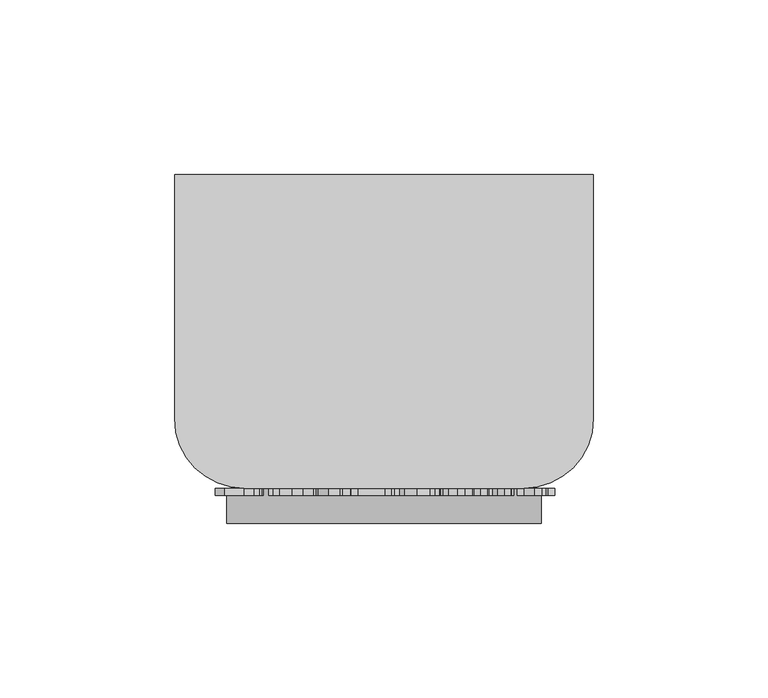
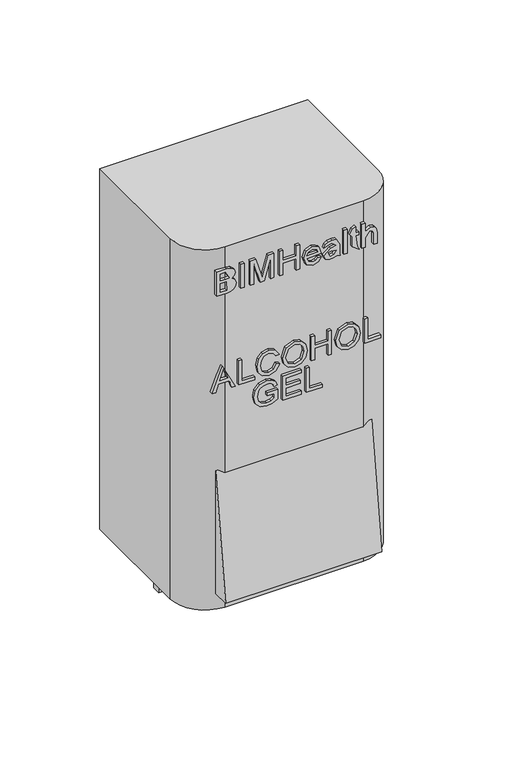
"""IFC4 building model written with IfcOpenShell, lengths in millimetres: furniture geometry, BIMHealth-Alcohol_gel_dispenser-LOD2A-v1 : BIMHealth-Alcohol_gel_dispenser-LOD2A-v1."""

from ifc_helpers import new_model, si_unit, point, frame, frame_2d, origin, place, context, project, spatial, polyline, circle_curve, trimmed, segment, composite_curve, outline, extrude, source, transform, mapped, element, save


def furniture_385ba860(model_context):
    return source(origin(), model_context, "Body", "SweptSolid", [
        extrude(outline(composite_curve([segment(polyline([(-27.7204761, 1175.8518543), (-32.7330725, 1175.8518543)]), True, "CONTINUOUS"), segment(trimmed(circle_curve(frame_2d((9.9472305, 1178.699775)), 42.7752137), [point((-32.7330725, 1175.8518543))], [point((-27.147504, 1200.0))], False, "CARTESIAN"), True, "CONTINUOUS"), segment(polyline([(-27.147504, 1200.0), (-21.25, 1200.0)]), True, "CONTINUOUS"), segment(trimmed(circle_curve(frame_2d((9.9472305, 1178.699775)), 37.7752137), [point((-21.25, 1200.0))], [point((-27.7204761, 1175.8518543))], True, "CARTESIAN"), True, "CONTINUOUS")], self_intersect=False)), frame((15.0, 0.0, 0.0), z_axis=(1.0, 0.0, 0.0), x_axis=(0.0, 1.0, 0.0)), (0.0, 0.0, 1.0), 90.0),
        extrude(outline(composite_curve([segment(polyline([(120.0, 0.0), (120.0, -70.0)]), True, "CONTINUOUS"), segment(trimmed(circle_curve(frame_2d((100.0, -70.0)), 20.0), [point((120.0, -70.0))], [point((100.0, -90.0))], False, "CARTESIAN"), True, "CONTINUOUS"), segment(polyline([(100.0, -90.0), (20.0, -90.0)]), True, "CONTINUOUS"), segment(trimmed(circle_curve(frame_2d((20.0, -70.0)), 20.0), [point((20.0, -90.0))], [point((0.0, -70.0))], False, "CARTESIAN"), True, "CONTINUOUS"), segment(polyline([(0.0, -70.0), (0.0, 0.0), (120.0, 0.0)]), True, "CONTINUOUS")], self_intersect=False)), frame((0.0, 0.0, 1200.0), z_axis=(0.0, 0.0, 1.0), x_axis=(1.0, 0.0, 0.0)), (0.0, 0.0, 1.0), 220.0),
        extrude(outline(polyline([(1334.3741496, 11.682664), (1334.3741496, 13.6297794), (1338.9895342, 15.3172794), (1338.9895342, 21.4038178), (1334.3741496, 23.0913178), (1334.3741496, 25.042039), (1349.1433804, 17.5780967), (1334.3741496, 11.682664)]), holes=[polyline([(1340.8356881, 15.995164), (1344.7840054, 17.4410775), (1347.2972265, 18.3605486), (1344.4666977, 19.3954044), (1340.8356881, 20.729539), (1340.8356881, 15.995164)])]), frame((0.0, -92.0, 0.0), z_axis=(0.0, 1.0, 0.0), x_axis=(0.0, 0.0, 1.0)), (0.0, 0.0, 1.0), 2.0),
        extrude(outline(polyline([(1334.3741496, 27.0143948), (1334.3741496, 36.245164), (1336.2203034, 36.245164), (1336.2203034, 28.8605486), (1349.1433804, 28.8605486), (1349.1433804, 27.0143948), (1334.3741496, 27.0143948)])), frame((0.0, -92.0, 0.0), z_axis=(0.0, 1.0, 0.0), x_axis=(0.0, 0.0, 1.0)), (0.0, 0.0, 1.0), 2.0),
        extrude(outline(polyline([(1339.6241496, 48.7067025), (1336.9053996, 47.1399957), (1335.9895342, 44.3148755), (1336.6620102, 41.7673996), (1338.6938611, 40.0330246), (1341.8741496, 39.4759332), (1344.61814, 39.9464861), (1346.7383323, 41.5780967), (1347.5279958, 44.4663178), (1346.8158563, 46.9615101), (1344.5460246, 48.4759332), (1344.9859284, 50.3220871), (1348.2239092, 48.2361496), (1349.3741496, 44.5384332), (1348.4853275, 40.9903563), (1345.883765, 38.5041784), (1341.8705438, 37.6297794), (1337.9222265, 38.4032169), (1335.1133323, 40.6568226), (1334.1433804, 44.4987698), (1335.4252313, 48.3641544), (1339.1481881, 50.5528563), (1339.6241496, 48.7067025)])), frame((0.0, -92.0, 0.0), z_axis=(0.0, 1.0, 0.0), x_axis=(0.0, 0.0, 1.0)), (0.0, 0.0, 1.0), 2.0),
        extrude(outline(polyline([(1341.5640534, 52.3990101), (1337.8879717, 53.2427601), (1335.1475871, 55.7235294), (1334.1433804, 59.4374717), (1335.0520342, 63.0125919), (1337.727515, 65.572688), (1341.7335246, 66.4759332), (1345.6854477, 65.6177601), (1348.4005919, 63.1225678), (1349.3741496, 59.448289), (1347.3008323, 54.3677601), (1341.5640534, 52.3990101)]), holes=[polyline([(1341.5460246, 54.245164), (1346.148789, 55.7848275), (1347.5279958, 59.4591063), (1346.8122506, 62.1688419), (1344.7948227, 64.0023755), (1341.7479477, 64.6297794), (1337.4895342, 63.1640342), (1335.9895342, 59.4266544), (1337.4751111, 55.7217265), (1341.5460246, 54.245164)])]), frame((0.0, -92.0, 0.0), z_axis=(0.0, 1.0, 0.0), x_axis=(0.0, 0.0, 1.0)), (0.0, 0.0, 1.0), 2.0),
        extrude(outline(polyline([(1334.3741496, 69.0143948), (1334.3741496, 70.8605486), (1341.2972265, 70.8605486), (1341.2972265, 78.7067025), (1334.3741496, 78.7067025), (1334.3741496, 80.5528563), (1349.1433804, 80.5528563), (1349.1433804, 78.7067025), (1343.1433804, 78.7067025), (1343.1433804, 70.8605486), (1349.1433804, 70.8605486), (1349.1433804, 69.0143948), (1334.3741496, 69.0143948)])), frame((0.0, -92.0, 0.0), z_axis=(0.0, 1.0, 0.0), x_axis=(0.0, 0.0, 1.0)), (0.0, 0.0, 1.0), 2.0),
        extrude(outline(polyline([(1341.5640534, 83.0913178), (1337.8879717, 83.9350678), (1335.1475871, 86.4158371), (1334.1433804, 90.1297794), (1335.0520342, 93.7048996), (1337.727515, 96.2649957), (1341.7335246, 97.1682409), (1345.6854477, 96.3100678), (1348.4005919, 93.8148755), (1349.3741496, 90.1405967), (1347.3008323, 85.0600678), (1341.5640534, 83.0913178)]), holes=[polyline([(1341.5460246, 84.9374717), (1346.148789, 86.4771351), (1347.5279958, 90.151414), (1346.8122506, 92.8611496), (1344.7948227, 94.6946832), (1341.7479477, 95.3220871), (1337.4895342, 93.8563419), (1335.9895342, 90.1189621), (1337.4751111, 86.4140342), (1341.5460246, 84.9374717)])]), frame((0.0, -92.0, 0.0), z_axis=(0.0, 1.0, 0.0), x_axis=(0.0, 0.0, 1.0)), (0.0, 0.0, 1.0), 2.0),
        extrude(outline(polyline([(1334.3741496, 99.7067025), (1334.3741496, 108.9374717), (1336.2203034, 108.9374717), (1336.2203034, 101.5528563), (1349.1433804, 101.5528563), (1349.1433804, 99.7067025), (1334.3741496, 99.7067025)])), frame((0.0, -92.0, 0.0), z_axis=(0.0, 1.0, 0.0), x_axis=(0.0, 0.0, 1.0)), (0.0, 0.0, 1.0), 2.0),
        extrude(outline(polyline([(1321.9126111, 43.3990101), (1321.9126111, 47.5528563), (1319.2443419, 47.5528563), (1318.2329236, 45.683265), (1317.758765, 43.1574236), (1318.3879717, 40.3431207), (1320.3134525, 38.32389), (1323.5316015, 37.6297794), (1326.43064, 38.2067025), (1327.8531159, 39.1568226), (1328.898789, 40.7649957), (1329.2972265, 43.1285775), (1328.9276352, 45.2036976), (1327.9432602, 46.6423996), (1326.2359284, 47.4843467), (1326.7154958, 49.1862698), (1329.1584044, 48.0702842), (1330.6187409, 46.0456448), (1331.1433804, 43.1574236), (1330.2383323, 39.2704044), (1327.4709044, 36.683265), (1323.4558804, 35.7836255), (1319.5291977, 36.6868707), (1316.8410967, 39.3623515), (1315.9126111, 43.3052601), (1316.4967458, 46.4368707), (1318.2383323, 49.3990101), (1323.758765, 49.3990101), (1323.758765, 43.3990101), (1321.9126111, 43.3990101)])), frame((0.0, -92.0, 0.0), z_axis=(0.0, 1.0, 0.0), x_axis=(0.0, 0.0, 1.0)), (0.0, 0.0, 1.0), 2.0),
        extrude(outline(polyline([(1316.1433804, 52.3990101), (1316.1433804, 63.245164), (1317.9895342, 63.245164), (1317.9895342, 54.245164), (1322.8356881, 54.245164), (1322.8356881, 62.5528563), (1324.6818419, 62.5528563), (1324.6818419, 54.245164), (1329.0664573, 54.245164), (1329.0664573, 63.0143948), (1330.9126111, 63.0143948), (1330.9126111, 52.3990101), (1316.1433804, 52.3990101)])), frame((0.0, -92.0, 0.0), z_axis=(0.0, 1.0, 0.0), x_axis=(0.0, 0.0, 1.0)), (0.0, 0.0, 1.0), 2.0),
        extrude(outline(polyline([(1316.1433804, 66.0143948), (1316.1433804, 75.245164), (1317.9895342, 75.245164), (1317.9895342, 67.8605486), (1330.9126111, 67.8605486), (1330.9126111, 66.0143948), (1316.1433804, 66.0143948)])), frame((0.0, -92.0, 0.0), z_axis=(0.0, 1.0, 0.0), x_axis=(0.0, 0.0, 1.0)), (0.0, 0.0, 1.0), 2.0),
        extrude(outline(polyline([(-100.0, 1210.0), (-90.0, 1285.0), (-90.0, 1210.0), (-100.0, 1210.0)])), frame((15.0, 0.0, 0.0), z_axis=(1.0, 0.0, 0.0), x_axis=(0.0, 1.0, 0.0)), (0.0, 0.0, 1.0), 90.0),
        extrude(outline(polyline([(1392.8596209, 14.3661949), (1392.8596209, 19.9587429), (1393.1138276, 22.3259304), (1393.8638276, 23.9323006), (1395.2772892, 25.0086227), (1397.2622651, 25.4431179), (1399.5591401, 24.8066997), (1400.936544, 22.9875891), (1402.2436353, 24.4857862), (1403.9689959, 24.9815795), (1405.858419, 24.3920362), (1407.1943565, 22.7622285), (1407.6288517, 20.0020122), (1407.6288517, 14.3661949), (1392.8596209, 14.3661949)]), holes=[polyline([(1394.7057748, 16.2123487), (1399.7826978, 16.2123487), (1399.7826978, 19.8181179), (1394.7057748, 19.9984064), (1394.7057748, 16.2123487)]), polyline([(1401.6288517, 16.2123487), (1405.7826978, 16.2123487), (1405.7826978, 19.3277333), (1401.7875055, 21.5524929), (1401.6288517, 19.5837429), (1401.6288517, 16.2123487)])]), frame((0.0, -92.0, 0.0), z_axis=(0.0, 1.0, 0.0), x_axis=(0.0, 0.0, 1.0)), (0.0, 0.0, 1.0), 2.0),
        extrude(outline(polyline([(30.0585026, -92.0), (28.2123487, -92.0), (28.2123487, -90.0), (30.0585026, -90.0), (30.0585026, -92.0)])), frame((0.0, 0.0, 1392.8596209), z_axis=(0.0, 0.0, 1.0), x_axis=(1.0, 0.0, 0.0)), (0.0, 0.0, 1.0), 14.7692308),
        extrude(outline(polyline([(1392.8596209, 33.7508102), (1392.8596209, 35.5969641), (1405.7826978, 35.5969641), (1392.8596209, 39.3109064), (1392.8596209, 41.8097045), (1405.7826978, 45.520041), (1392.8596209, 45.520041), (1392.8596209, 47.3661949), (1407.6288517, 47.3661949), (1407.6288517, 44.1895122), (1397.3992844, 41.2183583), (1395.0447171, 40.5585026), (1397.2189959, 39.9455218), (1407.6288517, 36.9166756), (1407.6288517, 33.7508102), (1392.8596209, 33.7508102)])), frame((0.0, -92.0, 0.0), z_axis=(0.0, 1.0, 0.0), x_axis=(0.0, 0.0, 1.0)), (0.0, 0.0, 1.0), 2.0),
        extrude(outline(polyline([(1392.8596209, 50.5969641), (1392.8596209, 52.4431179), (1399.7826978, 52.4431179), (1399.7826978, 60.2892718), (1392.8596209, 60.2892718), (1392.8596209, 62.1354256), (1407.6288517, 62.1354256), (1407.6288517, 60.2892718), (1401.6288517, 60.2892718), (1401.6288517, 52.4431179), (1407.6288517, 52.4431179), (1407.6288517, 50.5969641), (1392.8596209, 50.5969641)])), frame((0.0, -92.0, 0.0), z_axis=(0.0, 1.0, 0.0), x_axis=(0.0, 0.0, 1.0)), (0.0, 0.0, 1.0), 2.0),
        extrude(outline(polyline([(1396.0903901, 72.7291756), (1394.8608228, 71.5392718), (1394.4750055, 69.7291756), (1395.3079382, 67.3511708), (1397.7057748, 66.2892718), (1398.2033709, 74.5969641), (1402.4329382, 73.1961227), (1403.936544, 69.5885506), (1402.4293324, 65.8746083), (1398.1925536, 64.4431179), (1394.0909911, 65.8601852), (1392.6288517, 69.6931179), (1393.4762074, 72.8463631), (1395.8596209, 74.5392718), (1396.0903901, 72.7291756)]), holes=[polyline([(1399.5519286, 66.2892718), (1401.3998853, 67.3079016), (1402.0903901, 69.5813391), (1401.2250055, 72.0116276), (1399.5519286, 72.7508102), (1399.5519286, 66.2892718)])]), frame((0.0, -92.0, 0.0), z_axis=(0.0, 1.0, 0.0), x_axis=(0.0, 0.0, 1.0)), (0.0, 0.0, 1.0), 2.0),
        extrude(outline(polyline([(1393.5519286, 83.5969641), (1392.8596209, 85.6738872), (1394.4119046, 85.3060987), (1397.6192363, 85.2123487), (1399.9161113, 85.2123487), (1403.608419, 83.2922766), (1403.936544, 81.0548968), (1403.5651498, 78.6191997), (1402.5086594, 77.0110266), (1400.7057748, 76.2123487), (1401.7352219, 78.9491276), (1402.0903901, 80.816916), (1399.7826978, 83.3553776), (1399.1480824, 80.1534545), (1395.7442363, 75.9815795), (1393.5050536, 76.9172766), (1392.6288517, 79.598166), (1392.9930344, 81.5759304), (1393.5519286, 83.5969641)]), holes=[polyline([(1396.9611834, 83.2147526), (1394.9167123, 81.8589833), (1394.4750055, 79.9911949), (1397.0711594, 78.7994881), (1397.3704382, 80.3878295), (1396.9611834, 83.2147526)])]), frame((0.0, -92.0, 0.0), z_axis=(0.0, 1.0, 0.0), x_axis=(0.0, 0.0, 1.0)), (0.0, 0.0, 1.0), 2.0),
        extrude(outline(polyline([(89.5969641, -92.0), (87.7508102, -92.0), (87.7508102, -90.0), (89.5969641, -90.0), (89.5969641, -92.0)])), frame((0.0, 0.0, 1392.8596209), z_axis=(0.0, 0.0, 1.0), x_axis=(1.0, 0.0, 0.0)), (0.0, 0.0, 1.0), 14.7692308),
        extrude(outline(polyline([(1395.1438757, 95.3661949), (1401.8596209, 94.4431179), (1401.8596209, 96.2892718), (1403.7057748, 96.2892718), (1403.7057748, 94.4431179), (1407.4269286, 94.4431179), (1406.3415921, 92.5969641), (1403.7057748, 91.2123487), (1401.8596209, 92.5969641), (1395.8343805, 92.5969641), (1392.8055344, 96.520041), (1395.1438757, 95.3661949)])), frame((0.0, -92.0, 0.0), z_axis=(0.0, 1.0, 0.0), x_axis=(0.0, 0.0, 1.0)), (0.0, 0.0, 1.0), 2.0),
        extrude(outline(polyline([(1392.8596209, 98.1354256), (1392.8596209, 99.9815795), (1398.6216401, 99.9815795), (1402.0903901, 102.8048968), (1401.4810151, 104.4707622), (1399.5338998, 105.0585026), (1392.8596209, 105.0585026), (1392.8596209, 106.9046564), (1399.7250055, 106.9046564), (1402.1516882, 106.5260506), (1403.4623853, 105.2676372), (1403.936544, 103.1943199), (1402.1985632, 99.9815795), (1407.6288517, 99.9815795), (1407.6288517, 98.1354256), (1392.8596209, 98.1354256)])), frame((0.0, -92.0, 0.0), z_axis=(0.0, 1.0, 0.0), x_axis=(0.0, 0.0, 1.0)), (0.0, 0.0, 1.0), 2.0),
        extrude(outline(composite_curve([segment(trimmed(circle_curve(frame_2d((60.0, -60.0)), 10.0), [point((50.0, -60.0))], [point((70.0, -60.0))], False, "CARTESIAN"), True, "CONTINUOUS"), segment(trimmed(circle_curve(frame_2d((60.0, -60.0)), 10.0), [point((70.0, -60.0))], [point((50.0, -60.0))], False, "CARTESIAN"), True, "CONTINUOUS")], self_intersect=False)), frame((0.0, 0.0, 1191.2594935), z_axis=(0.0, 0.0, 1.0), x_axis=(1.0, 0.0, 0.0)), (0.0, 0.0, 1.0), 8.7405065),
    ])


if __name__ == "__main__":
    model = new_model("IFC4")
    model_context = context("Model", 3, world=origin())
    ifc_project = project(units=[si_unit("LENGTHUNIT", "METRE", prefix="MILLI")], contexts=[model_context])
    site = spatial("IfcSite", under=ifc_project)
    building = spatial("IfcBuilding", under=site)
    placement = place(None, origin())
    furniture_shape = furniture_385ba860(model_context)
    element("IfcFurniture", 1, ObjectType="BIMHealth-Alcohol_gel_dispenser-LOD2A-v1 : BIMHealth-Alcohol_gel_dispenser-LOD2A-v1", at=placement, inside=building, context=model_context, shape_type="MappedRepresentation", body=[
        mapped(furniture_shape, transform((0.0, 0.0, 0.0), x_axis=(1.0, 0.0, 0.0), y_axis=(0.0, 1.0, 0.0), z_axis=(0.0, 0.0, 1.0))),
    ])
    save(model, "model.ifc")
